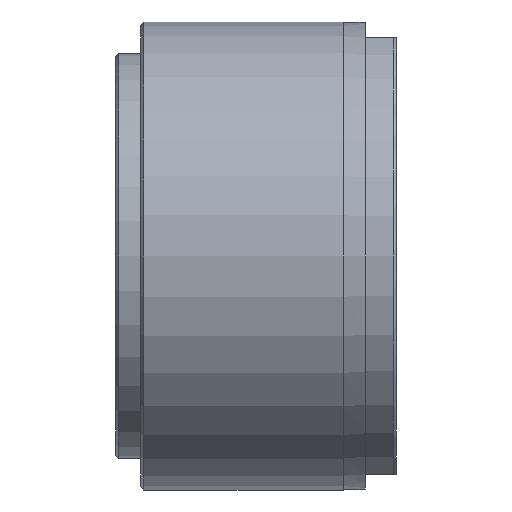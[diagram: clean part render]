
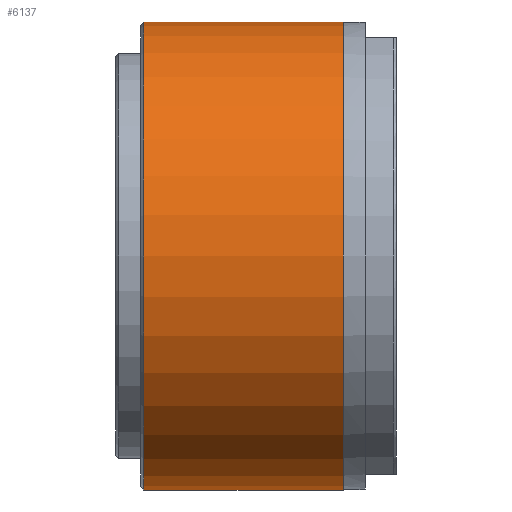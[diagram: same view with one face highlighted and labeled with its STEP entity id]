
A CAD part, left-side view. The second image highlights one B-rep face of the part: STEP entity #6137.
In plain terms, the highlighted cylindrical face has radius 7.5 mm (diameter 15 mm), a partial arc.
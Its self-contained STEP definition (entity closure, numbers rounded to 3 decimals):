
#8 = EDGE_CURVE ( 'NONE', #3435, #5557, #5041, .T. ) ;
#10 = DIRECTION ( 'NONE',  ( 0., 0., 1. ) ) ;
#14 = CIRCLE ( 'NONE', #6633, 7.5 ) ;
#54 = FACE_OUTER_BOUND ( 'NONE', #147, .T. ) ;
#147 = EDGE_LOOP ( 'NONE', ( #4660, #5023, #1297, #1735 ) ) ;
#189 = AXIS2_PLACEMENT_3D ( 'NONE', #3145, #1301, #10 ) ;
#267 = CARTESIAN_POINT ( 'NONE',  ( 0., 4.5, -7.5 ) ) ;
#294 = DIRECTION ( 'NONE',  ( 0., 0., -1. ) ) ;
#758 = CYLINDRICAL_SURFACE ( 'NONE', #189, 7.5 ) ;
#1297 = ORIENTED_EDGE ( 'NONE', *, *, #8, .T. ) ;
#1301 = DIRECTION ( 'NONE',  ( 0., 1., 0. ) ) ;
#1588 = AXIS2_PLACEMENT_3D ( 'NONE', #5972, #7872, #294 ) ;
#1642 = EDGE_CURVE ( 'NONE', #7542, #7321, #3982, .T. ) ;
#1735 = ORIENTED_EDGE ( 'NONE', *, *, #2336, .T. ) ;
#2131 = DIRECTION ( 'NONE',  ( 0., 1., 0. ) ) ;
#2336 = EDGE_CURVE ( 'NONE', #5557, #7321, #7276, .T. ) ;
#3138 = CARTESIAN_POINT ( 'NONE',  ( 0., -2.8, -7.5 ) ) ;
#3145 = CARTESIAN_POINT ( 'NONE',  ( 0., 4.5, 0. ) ) ;
#3435 = VERTEX_POINT ( 'NONE', #3548 ) ;
#3548 = CARTESIAN_POINT ( 'NONE',  ( 0., -2.8, 7.5 ) ) ;
#3665 = DIRECTION ( 'NONE',  ( 0., 1., 0. ) ) ;
#3709 = DIRECTION ( 'NONE',  ( 0., 1., 0. ) ) ;
#3982 = LINE ( 'NONE', #267, #5270 ) ;
#4252 = CARTESIAN_POINT ( 'NONE',  ( 0., 3.6, 7.5 ) ) ;
#4529 = VECTOR ( 'NONE', #3665, 1000. ) ;
#4660 = ORIENTED_EDGE ( 'NONE', *, *, #1642, .F. ) ;
#4996 = DIRECTION ( 'NONE',  ( 0., 0., 1. ) ) ;
#5023 = ORIENTED_EDGE ( 'NONE', *, *, #8075, .T. ) ;
#5041 = LINE ( 'NONE', #8112, #4529 ) ;
#5153 = CARTESIAN_POINT ( 'NONE',  ( 0., 3.6, -7.5 ) ) ;
#5270 = VECTOR ( 'NONE', #2131, 1000. ) ;
#5557 = VERTEX_POINT ( 'NONE', #4252 ) ;
#5625 = CARTESIAN_POINT ( 'NONE',  ( 0., -2.8, 0. ) ) ;
#5972 = CARTESIAN_POINT ( 'NONE',  ( 0., 3.6, 0. ) ) ;
#6137 = ADVANCED_FACE ( 'NONE', ( #54 ), #758, .T. ) ;
#6633 = AXIS2_PLACEMENT_3D ( 'NONE', #5625, #3709, #4996 ) ;
#7276 = CIRCLE ( 'NONE', #1588, 7.5 ) ;
#7321 = VERTEX_POINT ( 'NONE', #5153 ) ;
#7542 = VERTEX_POINT ( 'NONE', #3138 ) ;
#7872 = DIRECTION ( 'NONE',  ( 0., -1., 0. ) ) ;
#8075 = EDGE_CURVE ( 'NONE', #7542, #3435, #14, .T. ) ;
#8112 = CARTESIAN_POINT ( 'NONE',  ( 0., 4.5, 7.5 ) ) ;
